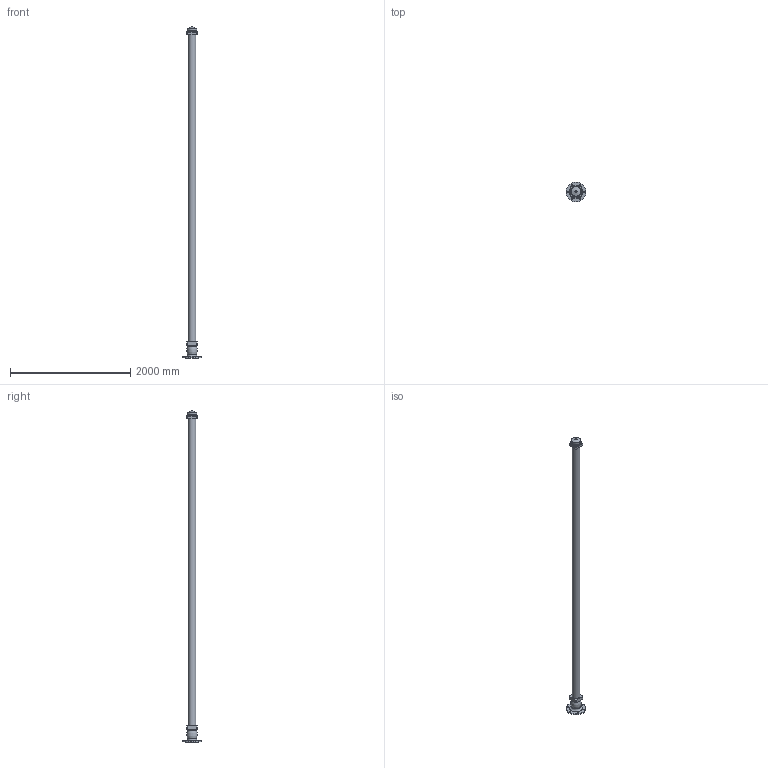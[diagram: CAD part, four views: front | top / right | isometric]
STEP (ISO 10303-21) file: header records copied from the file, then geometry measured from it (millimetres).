
FILE_DESCRIPTION(('STEP AP203'), '1');
FILE_NAME('Ãèäðàíò GPP 5500 ïîæàðíûé ïîäçåìíûé', '', ('UNSPECIFIED'), ('UNSPECIFIED'), 'ASCON STEP Converter 1.6', 'ASCON Math Kernel', '');
FILE_SCHEMA(('CONFIG_CONTROL_DESIGN'));
Length unit declared in the file: millimetre
Bounding box: 330 x 330 x 5522 mm (x, y, z)
Volume: 76552996.9 mm3; surface area: 2529277 mm2
Topology: 1 solids, 1 shells, 47 faces, 104 edges, 67 vertices
Faces by surface type: plane 26, cylinder 12, cone 7, torus 2
Full cylindrical faces by diameter (mm): 20 x1, 22 x6, 129 x1, 142 x1, 143 x1, 157.302 x1, 160 x1
Entity records: 1617 total; most frequent: DIRECTION 212, CARTESIAN_POINT 196, ORIENTED_EDGE 164, EDGE_LOOP 88, AXIS2_PLACEMENT_3D 82, EDGE_CURVE 82, VERTEX_POINT 66, COLOUR_RGB 48
